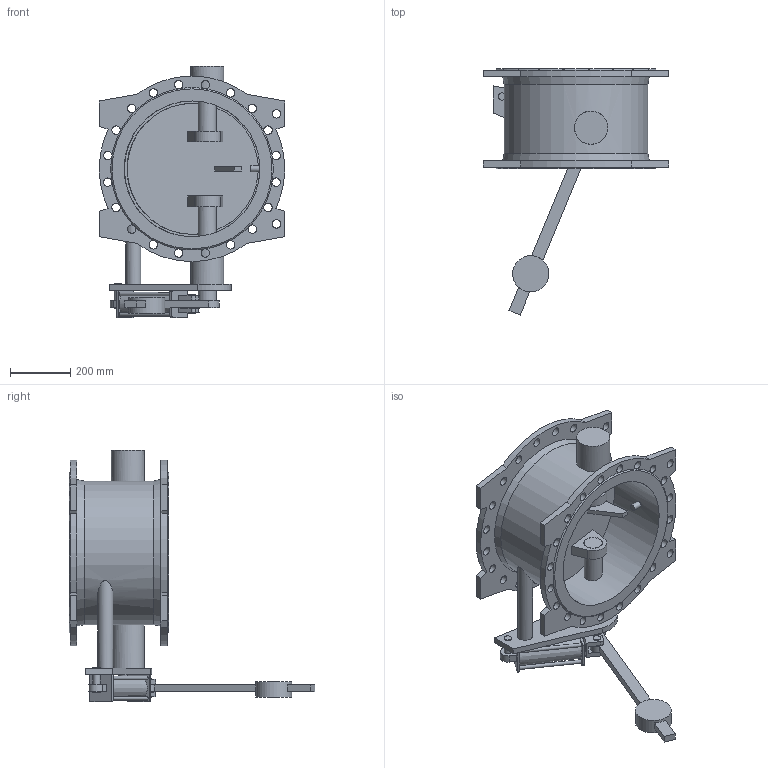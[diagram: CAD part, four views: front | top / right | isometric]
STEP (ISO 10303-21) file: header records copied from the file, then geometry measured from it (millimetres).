
FILE_DESCRIPTION(('STEP AP203'), '1');
FILE_NAME('Êëàïàí 015F.PV DN450 PN10 ñ ïðîòèâîâåñîì ñ äåìïôåðîì', '', ('UNSPECIFIED'), ('UNSPECIFIED'), 'ASCON STEP Converter 1.6', 'ASCON Math Kernel', '');
FILE_SCHEMA(('CONFIG_CONTROL_DESIGN'));
Length unit declared in the file: millimetre
Bounding box: 615 x 815 x 833.5 mm (x, y, z)
Volume: 21965609.1 mm3; surface area: 2569806.8 mm2
Topology: 1 solids, 1 shells, 207 faces, 644 edges, 427 vertices
Faces by surface type: plane 100, cylinder 97, cone 5, extrusion 2, torus 2, bspline 1
Full cylindrical faces by diameter (mm): 12 x4, 16 x1, 20 x1, 22 x2, 24 x7, 28 x44, 30 x1, 50 x1, 60 x3, 62 x2, 110 x2, 120 x1, 450 x1, 476 x1
Entity records: 12445 total; most frequent: CARTESIAN_POINT 5005, DIRECTION 1182, ORIENTED_EDGE 1116, EDGE_CURVE 558, AXIS2_PLACEMENT_3D 483, VERTEX_POINT 426, EDGE_LOOP 390, CIRCLE 278
